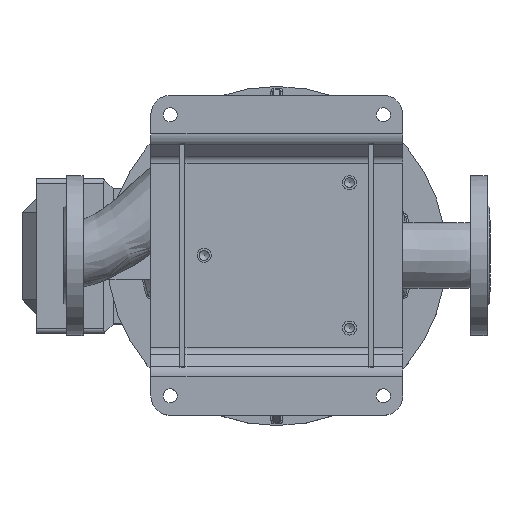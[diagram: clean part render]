
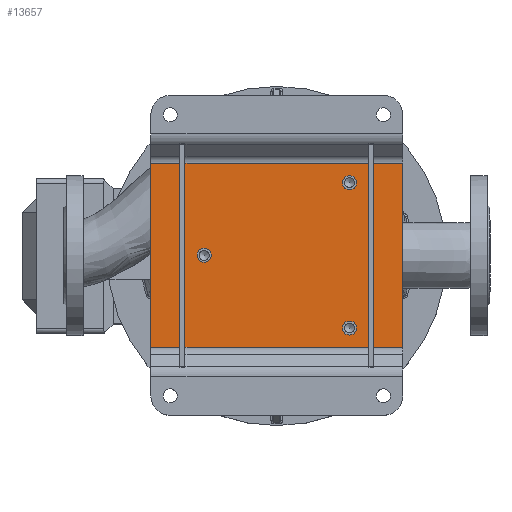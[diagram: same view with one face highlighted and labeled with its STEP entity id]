
A CAD part, top view. The second image highlights one B-rep face of the part: STEP entity #13657.
In plain terms, the highlighted planar face has unit normal (0, 0, 1) as drawn and (0, -1, 0) by its records, which use the part's own axes.
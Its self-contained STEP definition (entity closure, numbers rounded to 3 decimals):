
#3901 = CARTESIAN_POINT ( 'NONE',  ( -95., -5., 130. ) ) ;
#5675 = DIRECTION ( 'NONE',  ( 0., 0., -1. ) ) ;
#6002 = CARTESIAN_POINT ( 'NONE',  ( 0., -5., 0. ) ) ;
#6343 = EDGE_CURVE ( 'NONE', #30790, #21603, #22523, .T. ) ;
#6451 = DIRECTION ( 'NONE',  ( 0., 0., -1. ) ) ;
#6906 = EDGE_CURVE ( 'NONE', #36629, #36629, #27422, .T. ) ;
#7127 = CARTESIAN_POINT ( 'NONE',  ( 95., -5., 130. ) ) ;
#7260 = AXIS2_PLACEMENT_3D ( 'NONE', #54717, #55868, #28449 ) ;
#7556 = EDGE_CURVE ( 'NONE', #40917, #40917, #28414, .T. ) ;
#8316 = AXIS2_PLACEMENT_3D ( 'NONE', #37875, #45876, #6451 ) ;
#9825 = ORIENTED_EDGE ( 'NONE', *, *, #48320, .F. ) ;
#10423 = ORIENTED_EDGE ( 'NONE', *, *, #6906, .F. ) ;
#11268 = ORIENTED_EDGE ( 'NONE', *, *, #7556, .F. ) ;
#11941 = VECTOR ( 'NONE', #5675, 1000. ) ;
#12474 = EDGE_LOOP ( 'NONE', ( #11268 ) ) ;
#12511 = CARTESIAN_POINT ( 'NONE',  ( -75., -5., 75. ) ) ;
#12571 = ORIENTED_EDGE ( 'NONE', *, *, #48125, .F. ) ;
#13657 = ADVANCED_FACE ( 'NONE', ( #27984, #45410, #41958, #27706 ), #50537, .T. ) ;
#13817 = AXIS2_PLACEMENT_3D ( 'NONE', #12511, #25626, #51628 ) ;
#14046 = ORIENTED_EDGE ( 'NONE', *, *, #49192, .F. ) ;
#18628 = CARTESIAN_POINT ( 'NONE',  ( -75., -5., 67.75 ) ) ;
#19647 = ORIENTED_EDGE ( 'NONE', *, *, #6343, .F. ) ;
#19878 = LINE ( 'NONE', #54751, #32587 ) ;
#21603 = VERTEX_POINT ( 'NONE', #39003 ) ;
#21701 = VECTOR ( 'NONE', #56190, 1000. ) ;
#22523 = LINE ( 'NONE', #32223, #11941 ) ;
#23395 = DIRECTION ( 'NONE',  ( 0., 0., -1. ) ) ;
#25626 = DIRECTION ( 'NONE',  ( 0., -1., 0. ) ) ;
#25950 = EDGE_LOOP ( 'NONE', ( #10423 ) ) ;
#27408 = VERTEX_POINT ( 'NONE', #39736 ) ;
#27422 = CIRCLE ( 'NONE', #8316, 7.25 ) ;
#27573 = VERTEX_POINT ( 'NONE', #39033 ) ;
#27706 = FACE_OUTER_BOUND ( 'NONE', #49062, .T. ) ;
#27716 = DIRECTION ( 'NONE',  ( 0., 0., 1. ) ) ;
#27984 = FACE_BOUND ( 'NONE', #25950, .T. ) ;
#28414 = CIRCLE ( 'NONE', #13817, 7.25 ) ;
#28449 = DIRECTION ( 'NONE',  ( 0., 0., -1. ) ) ;
#30790 = VERTEX_POINT ( 'NONE', #7127 ) ;
#32223 = CARTESIAN_POINT ( 'NONE',  ( 95., -5., 130. ) ) ;
#32587 = VECTOR ( 'NONE', #45076, 1000. ) ;
#32783 = CIRCLE ( 'NONE', #7260, 7.25 ) ;
#34203 = LINE ( 'NONE', #3901, #21701 ) ;
#36629 = VERTEX_POINT ( 'NONE', #53747 ) ;
#37875 = CARTESIAN_POINT ( 'NONE',  ( 75., -5., 75. ) ) ;
#38148 = VECTOR ( 'NONE', #27716, 1000. ) ;
#39003 = CARTESIAN_POINT ( 'NONE',  ( 95., -5., -130. ) ) ;
#39033 = CARTESIAN_POINT ( 'NONE',  ( -95., -5., 130. ) ) ;
#39736 = CARTESIAN_POINT ( 'NONE',  ( 0., -5., -82.25 ) ) ;
#40917 = VERTEX_POINT ( 'NONE', #18628 ) ;
#41122 = DIRECTION ( 'NONE',  ( 0., -1., 0. ) ) ;
#41958 = FACE_BOUND ( 'NONE', #12474, .T. ) ;
#44857 = EDGE_CURVE ( 'NONE', #27408, #27408, #32783, .T. ) ;
#45076 = DIRECTION ( 'NONE',  ( -1., 0., 0. ) ) ;
#45410 = FACE_BOUND ( 'NONE', #52186, .T. ) ;
#45876 = DIRECTION ( 'NONE',  ( 0., -1., 0. ) ) ;
#45916 = CARTESIAN_POINT ( 'NONE',  ( -95., -5., -130. ) ) ;
#46672 = AXIS2_PLACEMENT_3D ( 'NONE', #6002, #41122, #23395 ) ;
#48125 = EDGE_CURVE ( 'NONE', #21603, #50837, #19878, .T. ) ;
#48320 = EDGE_CURVE ( 'NONE', #27573, #30790, #34203, .T. ) ;
#49062 = EDGE_LOOP ( 'NONE', ( #19647, #9825, #14046, #12571 ) ) ;
#49192 = EDGE_CURVE ( 'NONE', #50837, #27573, #53689, .T. ) ;
#49419 = CARTESIAN_POINT ( 'NONE',  ( -95., -5., 130. ) ) ;
#50537 = PLANE ( 'NONE',  #46672 ) ;
#50837 = VERTEX_POINT ( 'NONE', #45916 ) ;
#51628 = DIRECTION ( 'NONE',  ( 0., 0., -1. ) ) ;
#52186 = EDGE_LOOP ( 'NONE', ( #56282 ) ) ;
#53689 = LINE ( 'NONE', #49419, #38148 ) ;
#53747 = CARTESIAN_POINT ( 'NONE',  ( 75., -5., 67.75 ) ) ;
#54717 = CARTESIAN_POINT ( 'NONE',  ( 0., -5., -75. ) ) ;
#54751 = CARTESIAN_POINT ( 'NONE',  ( -95., -5., -130. ) ) ;
#55868 = DIRECTION ( 'NONE',  ( 0., -1., 0. ) ) ;
#56190 = DIRECTION ( 'NONE',  ( 1., 0., 0. ) ) ;
#56282 = ORIENTED_EDGE ( 'NONE', *, *, #44857, .F. ) ;
